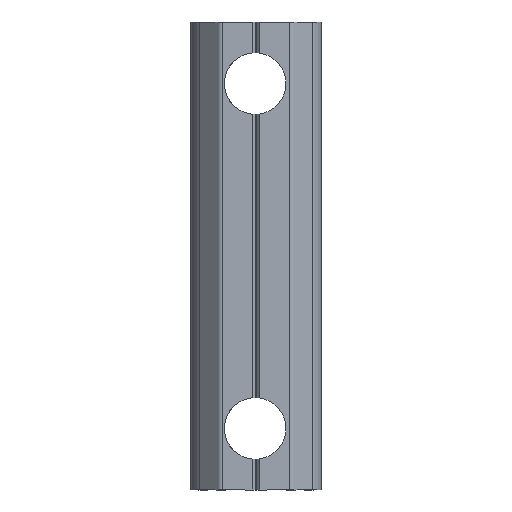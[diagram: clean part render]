
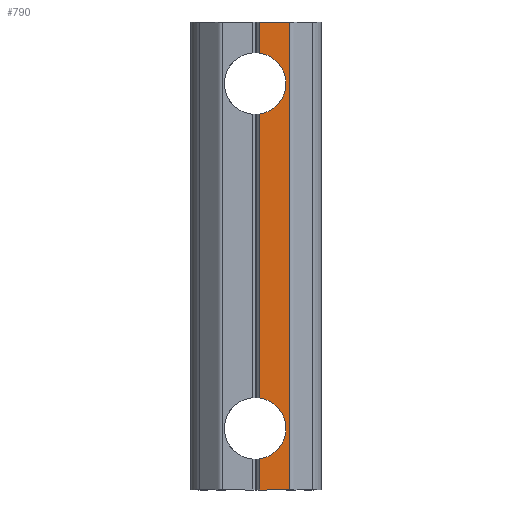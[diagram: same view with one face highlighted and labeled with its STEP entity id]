
A CAD part, front view. The second image highlights one B-rep face of the part: STEP entity #790.
In plain terms, the highlighted planar face has unit normal (0, -1, 0).
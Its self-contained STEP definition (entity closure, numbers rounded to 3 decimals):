
#5 = EDGE_CURVE ( 'NONE', #531, #390, #560, .T. ) ;
#12 = CARTESIAN_POINT ( 'NONE',  ( 2.936, 0., 19. ) ) ;
#32 = EDGE_CURVE ( 'NONE', #390, #1158, #215, .T. ) ;
#64 = ORIENTED_EDGE ( 'NONE', *, *, #823, .F. ) ;
#68 = AXIS2_PLACEMENT_3D ( 'NONE', #1843, #74, #1295 ) ;
#70 = CARTESIAN_POINT ( 'NONE',  ( 2.936, 0., 19. ) ) ;
#74 = DIRECTION ( 'NONE',  ( 0., -1., 0. ) ) ;
#195 = CARTESIAN_POINT ( 'NONE',  ( 0.291, 0., -19. ) ) ;
#215 = LINE ( 'NONE', #1664, #1705 ) ;
#223 = EDGE_CURVE ( 'NONE', #1026, #531, #1372, .T. ) ;
#236 = CARTESIAN_POINT ( 'NONE',  ( 0.291, 0., -16.474 ) ) ;
#332 = DIRECTION ( 'NONE',  ( 0., 0., 1. ) ) ;
#334 = DIRECTION ( 'NONE',  ( 0., -1., 0. ) ) ;
#356 = VECTOR ( 'NONE', #954, 1000. ) ;
#360 = CARTESIAN_POINT ( 'NONE',  ( 0.291, 0., 11.526 ) ) ;
#367 = CARTESIAN_POINT ( 'NONE',  ( 0.291, 0., -19. ) ) ;
#375 = EDGE_CURVE ( 'NONE', #548, #1026, #401, .T. ) ;
#390 = VERTEX_POINT ( 'NONE', #1577 ) ;
#399 = VECTOR ( 'NONE', #1605, 1000. ) ;
#401 = LINE ( 'NONE', #713, #356 ) ;
#455 = VERTEX_POINT ( 'NONE', #581 ) ;
#461 = DIRECTION ( 'NONE',  ( 0., -1., 0. ) ) ;
#463 = DIRECTION ( 'NONE',  ( 0., 0., 1. ) ) ;
#479 = DIRECTION ( 'NONE',  ( 1., 0., 0. ) ) ;
#482 = CARTESIAN_POINT ( 'NONE',  ( 0.291, 0., -19. ) ) ;
#483 = DIRECTION ( 'NONE',  ( 0., 0., -1. ) ) ;
#491 = CIRCLE ( 'NONE', #1849, 2.5 ) ;
#492 = VECTOR ( 'NONE', #1679, 1000. ) ;
#498 = ORIENTED_EDGE ( 'NONE', *, *, #1518, .F. ) ;
#531 = VERTEX_POINT ( 'NONE', #236 ) ;
#540 = LINE ( 'NONE', #482, #492 ) ;
#548 = VERTEX_POINT ( 'NONE', #1746 ) ;
#560 = CIRCLE ( 'NONE', #68, 2.5 ) ;
#581 = CARTESIAN_POINT ( 'NONE',  ( 2.728, 0., 19. ) ) ;
#604 = EDGE_LOOP ( 'NONE', ( #1791, #694, #814, #498, #64, #1327, #1168, #804 ) ) ;
#622 = VECTOR ( 'NONE', #832, 1000. ) ;
#673 = LINE ( 'NONE', #1249, #622 ) ;
#683 = PLANE ( 'NONE',  #1753 ) ;
#694 = ORIENTED_EDGE ( 'NONE', *, *, #727, .T. ) ;
#713 = CARTESIAN_POINT ( 'NONE',  ( 2.936, 0., -19. ) ) ;
#727 = EDGE_CURVE ( 'NONE', #548, #455, #673, .T. ) ;
#757 = CARTESIAN_POINT ( 'NONE',  ( -0.071, 0., 14. ) ) ;
#790 = ADVANCED_FACE ( 'NONE', ( #932 ), #683, .T. ) ;
#804 = ORIENTED_EDGE ( 'NONE', *, *, #223, .F. ) ;
#814 = ORIENTED_EDGE ( 'NONE', *, *, #1597, .T. ) ;
#823 = EDGE_CURVE ( 'NONE', #1158, #1379, #491, .T. ) ;
#832 = DIRECTION ( 'NONE',  ( 0., 0., 1. ) ) ;
#918 = CARTESIAN_POINT ( 'NONE',  ( 0.291, 0., 16.474 ) ) ;
#932 = FACE_OUTER_BOUND ( 'NONE', #604, .T. ) ;
#954 = DIRECTION ( 'NONE',  ( -1., 0., 0. ) ) ;
#1026 = VERTEX_POINT ( 'NONE', #195 ) ;
#1158 = VERTEX_POINT ( 'NONE', #360 ) ;
#1168 = ORIENTED_EDGE ( 'NONE', *, *, #5, .F. ) ;
#1249 = CARTESIAN_POINT ( 'NONE',  ( 2.728, 0., 19. ) ) ;
#1295 = DIRECTION ( 'NONE',  ( 0., 0., -1. ) ) ;
#1327 = ORIENTED_EDGE ( 'NONE', *, *, #32, .F. ) ;
#1353 = VERTEX_POINT ( 'NONE', #1370 ) ;
#1370 = CARTESIAN_POINT ( 'NONE',  ( 0.291, 0., 19. ) ) ;
#1372 = LINE ( 'NONE', #367, #1858 ) ;
#1379 = VERTEX_POINT ( 'NONE', #918 ) ;
#1518 = EDGE_CURVE ( 'NONE', #1379, #1353, #540, .T. ) ;
#1577 = CARTESIAN_POINT ( 'NONE',  ( 0.291, 0., -11.526 ) ) ;
#1586 = LINE ( 'NONE', #70, #399 ) ;
#1597 = EDGE_CURVE ( 'NONE', #455, #1353, #1586, .T. ) ;
#1605 = DIRECTION ( 'NONE',  ( -1., 0., 0. ) ) ;
#1664 = CARTESIAN_POINT ( 'NONE',  ( 0.291, 0., -19. ) ) ;
#1679 = DIRECTION ( 'NONE',  ( 0., 0., 1. ) ) ;
#1705 = VECTOR ( 'NONE', #332, 1000. ) ;
#1746 = CARTESIAN_POINT ( 'NONE',  ( 2.728, 0., -19. ) ) ;
#1753 = AXIS2_PLACEMENT_3D ( 'NONE', #12, #334, #479 ) ;
#1791 = ORIENTED_EDGE ( 'NONE', *, *, #375, .F. ) ;
#1843 = CARTESIAN_POINT ( 'NONE',  ( -0.071, 0., -14. ) ) ;
#1849 = AXIS2_PLACEMENT_3D ( 'NONE', #757, #461, #483 ) ;
#1858 = VECTOR ( 'NONE', #463, 1000. ) ;
